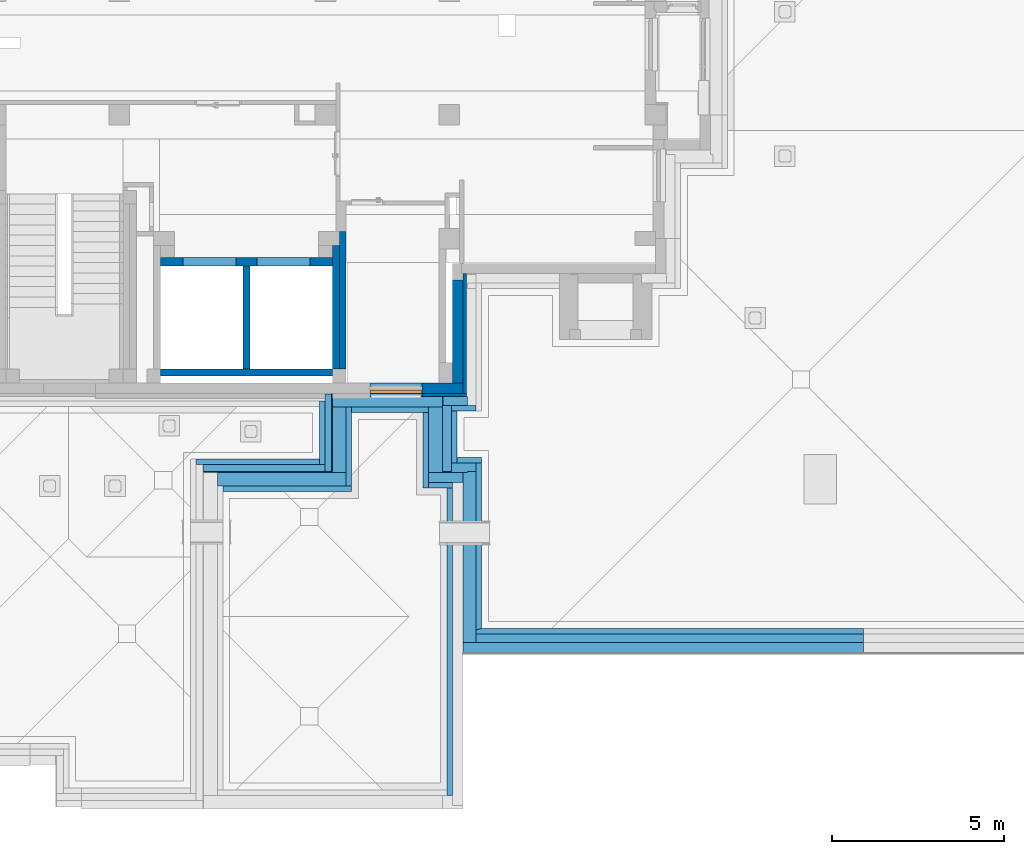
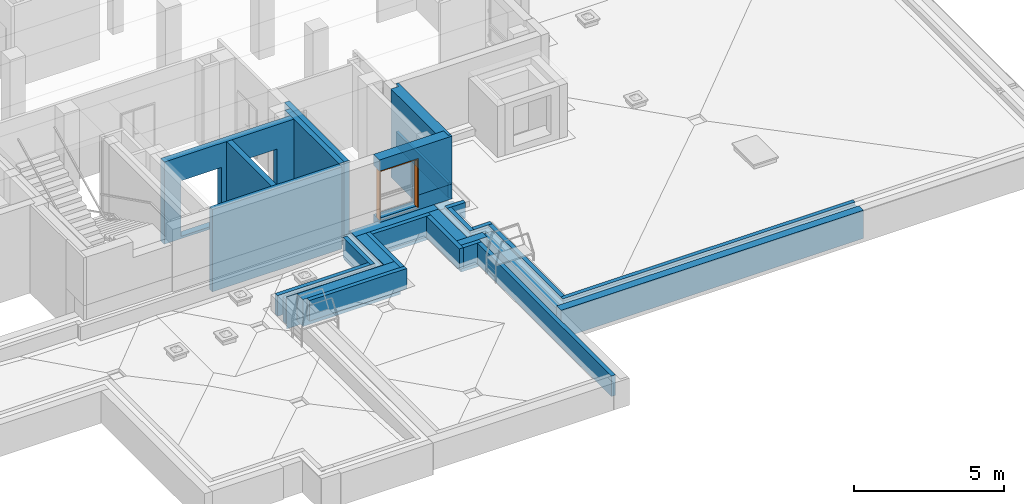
# One storey, part 21 of 50: 27 walls, 1 proxy, 6 openings.
"""IFC4 building model written with IfcOpenShell, lengths in metres."""

from ifc_helpers import new_model, entity, si_unit, converted_unit, derived_unit, frame, frame_2d, origin, origin_with_axes, place, context, subcontext, project, spatial, polyline, rectangle, outline, extrude, clip, bounded_halfspace, faceted_brep, material, layer, layer_set, layer_usage, element, fill, save


model = new_model("IFC4")

# Units and contexts
model_context = context("Model", 3, precision=1e-05, world=origin())
body_context = subcontext(model_context, "Body", "Model", "MODEL_VIEW")
ifc_project = project(units=[si_unit("LENGTHUNIT", "METRE"), si_unit("AREAUNIT", "SQUARE_METRE"), si_unit("VOLUMEUNIT", "CUBIC_METRE"), si_unit("MASSUNIT", "GRAM", prefix="KILO"), converted_unit("PLANEANGLEUNIT", "DEGREE", entity("IfcPlaneAngleMeasure", 0.0174532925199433), si_unit("PLANEANGLEUNIT", "RADIAN"), dimensions=[0, 0, 0, 0, 0, 0, 0]), derived_unit("THERMALTRANSMITTANCEUNIT", [(si_unit("POWERUNIT", "WATT"), 1), (si_unit("THERMODYNAMICTEMPERATUREUNIT", "KELVIN"), -1), (si_unit("LENGTHUNIT", "METRE"), -2)]), derived_unit("VOLUMETRICFLOWRATEUNIT", [(si_unit("LENGTHUNIT", "METRE"), 3), (converted_unit("TIMEUNIT", "hour", entity("IfcTimeMeasure", 3600.0), si_unit("TIMEUNIT", "SECOND"), dimensions=[0, 0, 1, 0, 0, 0, 0]), -1), (si_unit("LENGTHUNIT", "METRE"), -1)])], contexts=[model_context])

# Site, building, storey
site_placement = place(None, origin())
site = spatial("IfcSite", under=ifc_project, at=site_placement, Name="3. ASŘ", CompositionType="ELEMENT")
building_placement = place(site_placement, origin())
building = spatial("IfcBuilding", under=site, at=building_placement, Name="Pavilon C", CompositionType="ELEMENT")
storey_placement = place(building_placement, frame((0.0, 0.0, 3.6)))
storey = spatial("IfcBuildingStorey", under=building, at=storey_placement, Name="Půdorys 2.NP", CompositionType="ELEMENT", Elevation=3.6)

# Wall
ifc_material_1 = material(Name="ZELEZOBETONOVÁ KCE")
ifc_layer_1 = layer(ifc_material_1, 0.2)
ifc_layer_set_1 = layer_set([ifc_layer_1])
ifc_layer_usage_1 = layer_usage(ifc_layer_set_1, "AXIS2", "POSITIVE", 0.0)
wall_1_placement = place(storey_placement, frame((38.15, -3.8, -0.1), z_axis=(0.0, 0.0, 1.0), x_axis=(0.0, 1.0, 0.0)))
element("IfcWall", 1, at=wall_1_placement, inside=storey, material=ifc_layer_usage_1, Name="ZELEZOBETONOVÁ KCE", context=body_context, shape_type="SweptSolid", body=[
    extrude(rectangle(XDim=3.0, YDim=0.2, at=frame_2d((1.5, 0.1), x_axis=(1.0, 0.0))), origin_with_axes(), (0.0, 0.0, 1.0), 3.35),
])

# Wall, openings
ifc_material_2 = material(Name="ZDIVO Z CDm")
ifc_layer_2 = layer(ifc_material_2, 0.25)
ifc_layer_set_2 = layer_set([ifc_layer_2])
ifc_layer_usage_2 = layer_usage(ifc_layer_set_2, "AXIS2", "POSITIVE", 0.0)
wall_2_placement = place(storey_placement, frame((40.55, -0.550000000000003, -0.1), z_axis=(0.0, 0.0, 1.0), x_axis=(-1.0, 0.0, 0.0)))
wall_2 = element("IfcWall", 2, at=wall_2_placement, inside=storey, material=ifc_layer_usage_2, Name="ZDIVO Z CDm", context=body_context, shape_type="SweptSolid", body=[
    extrude(rectangle(XDim=5.0, YDim=0.25, at=frame_2d((2.5, 0.125), x_axis=(1.0, 0.0))), origin_with_axes(), (0.0, 0.0, 1.0), 3.35),
])
opening_1_placement = place(wall_2_placement, frame((0.65, 0.0, 0.1), z_axis=(0.0, 1.0, 0.0), x_axis=(0.0, 0.0, 1.0)))
element("IfcOpeningElement", 3, at=opening_1_placement, cuts=wall_2, Name="Dveřní otvor", ObjectType="Opening", context=body_context, shape_type="SweptSolid", body=[
    extrude(outline(polyline([(0.0, 1.55), (2.26, 1.55), (2.26, 0.0), (0.0, 0.0), (0.0, 1.55)])), origin_with_axes(), (0.0, 0.0, 1.0), 0.25),
])
opening_2_placement = place(wall_2_placement, frame((2.8, 0.0, 0.1), z_axis=(0.0, 1.0, 0.0), x_axis=(0.0, 0.0, 1.0)))
element("IfcOpeningElement", 4, at=opening_2_placement, cuts=wall_2, Name="Dveřní otvor", ObjectType="Opening", context=body_context, shape_type="SweptSolid", body=[
    extrude(outline(polyline([(0.0, 1.55), (2.26, 1.55), (2.26, 0.0), (0.0, 0.0), (0.0, 1.55)])), origin_with_axes(), (0.0, 0.0, 1.0), 0.25),
])

# Walls
ifc_material_3 = material(Name="ZELEZOBETONOVÁ KCE")
ifc_layer_3 = layer(ifc_material_3, 0.2)
ifc_layer_set_3 = layer_set([ifc_layer_3])
ifc_layer_usage_3 = layer_usage(ifc_layer_set_3, "AXIS2", "POSITIVE", 0.0)
wall_3_placement = place(storey_placement, frame((40.55, -0.200000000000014, -0.1), z_axis=(0.0, 0.0, 1.0), x_axis=(0.0, -1.0, 0.0)))
element("IfcWall", 5, at=wall_3_placement, inside=storey, material=ifc_layer_usage_3, Name="ZELEZOBETONOVÁ KCE", context=body_context, shape_type="SweptSolid", body=[
    extrude(rectangle(XDim=3.6, YDim=0.2, at=frame_2d((1.8, 0.1), x_axis=(1.0, 0.0))), origin_with_axes(), (0.0, 0.0, 1.0), 3.35),
])
ifc_material_4 = material(Name="ZELEZOBETONOVÁ KCE")
ifc_layer_4 = layer(ifc_material_4, 0.2)
ifc_layer_set_4 = layer_set([ifc_layer_4])
ifc_layer_usage_4 = layer_usage(ifc_layer_set_4, "AXIS2", "POSITIVE", 0.0)
wall_4_placement = place(storey_placement, frame((40.75, 0.199999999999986, -0.1), z_axis=(0.0, 0.0, 1.0), x_axis=(0.0, -1.0, 0.0)))
element("IfcWall", 6, at=wall_4_placement, inside=storey, material=ifc_layer_usage_4, Name="ZELEZOBETONOVÁ KCE", context=body_context, shape_type="SweptSolid", body=[
    extrude(rectangle(XDim=4.0, YDim=0.2, at=frame_2d((2.0, 0.1), x_axis=(1.0, 0.0))), origin_with_axes(), (0.0, 0.0, 1.0), 3.35),
])
ifc_material_5 = material(Name="ZELEZOBETONOVÁ KCE")
ifc_layer_5 = layer(ifc_material_5, 0.2)
ifc_layer_set_5 = layer_set([ifc_layer_5])
ifc_layer_usage_5 = layer_usage(ifc_layer_set_5, "AXIS2", "POSITIVE", 0.0)
wall_5_placement = place(storey_placement, frame((40.55, -3.80000000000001, -0.1), z_axis=(0.0, 0.0, 1.0), x_axis=(-1.0, 9.09494701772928e-17, 0.0)))
element("IfcWall", 7, at=wall_5_placement, inside=storey, material=ifc_layer_usage_5, Name="ZELEZOBETONOVÁ KCE", context=body_context, shape_type="SweptSolid", body=[
    extrude(rectangle(XDim=5.0, YDim=0.2, at=frame_2d((2.5, 0.1), x_axis=(1.0, 0.0))), origin_with_axes(), (0.0, 0.0, 1.0), 3.35),
])
ifc_material_6 = material(Name="EPS")
ifc_layer_6 = layer(ifc_material_6, 0.1)
ifc_material_7 = material(Name="ZELEZOBETONOVÁ KCE")
ifc_layer_7 = layer(ifc_material_7, 0.3)
ifc_layer_set_6 = layer_set([ifc_layer_6, ifc_layer_7])
ifc_layer_usage_6 = layer_usage(ifc_layer_set_6, "AXIS2", "POSITIVE", -0.1)
wall_6_placement = place(storey_placement, frame((44.45, -4.5, -0.1), z_axis=(0.0, 0.0, 1.0), x_axis=(0.0, 1.0, 0.0)))
element("IfcWall", 8, at=wall_6_placement, inside=storey, material=ifc_layer_usage_6, Name="ZELEZOBETONOVÁ KCE", context=body_context, shape_type="Clipping", body=[
    clip(extrude(outline(polyline([(0.0, -0.4), (3.48, -0.4), (3.48, -0.3), (3.3, -0.3), (3.3, 0.0), (0.3, 0.0), (0.3, -0.3), (0.0, -0.3), (0.0, -0.4)])), frame((0.0, 0.4, 0.0), z_axis=(0.0, 0.0, 1.0), x_axis=(1.0, 0.0, 0.0)), (0.0, 0.0, 1.0), 3.6), bounded_halfspace(frame((1.76, 0.0666666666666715, 1.65), z_axis=(0.0, 0.0, 1.0), x_axis=(-1.0, 0.0, 0.0)), True, origin_with_axes(), polyline([(3.3, 0.1), (0.3, 0.1), (0.0, 0.1), (0.0, 0.0), (3.48, 0.0), (3.48, 0.1), (3.3, 0.1)]))),
])

# Wall, opening, proxy
ifc_material_8 = material(Name="EPS")
ifc_layer_8 = layer(ifc_material_8, 0.1)
ifc_material_9 = material(Name="ZELEZOBETONOVÁ KCE")
ifc_layer_9 = layer(ifc_material_9, 0.3)
ifc_layer_set_7 = layer_set([ifc_layer_8, ifc_layer_9])
ifc_layer_usage_7 = layer_usage(ifc_layer_set_7, "AXIS2", "POSITIVE", -0.1)
wall_7_placement = place(storey_placement, frame((41.65, -4.6, -0.1)))
wall_7 = element("IfcWall", 9, at=wall_7_placement, inside=storey, material=ifc_layer_usage_7, Name="ZELEZOBETONOVÁ KCE", context=body_context, shape_type="Clipping", body=[
    clip(extrude(outline(polyline([(0.0, 0.0), (2.8, 0.0), (2.8, 0.1), (2.7, 0.1), (2.7, 0.4), (0.0, 0.4), (0.0, 0.0)])), origin_with_axes(), (0.0, 0.0, 1.0), 3.6), bounded_halfspace(frame((1.66, 0.06, 1.65), z_axis=(0.0, 0.0, 1.0), x_axis=(-1.0, 0.0, 0.0)), True, origin_with_axes(), polyline([(2.7, 0.1), (0.0, 0.1), (0.0, 0.0), (2.8, 0.0), (2.8, 0.1), (2.7, 0.1)]))),
])
opening_3_placement = place(wall_7_placement, frame((0.0, 0.0, 1.15), z_axis=(0.0, 1.0, 0.0), x_axis=(0.0, 0.0, 1.0)))
opening_3 = element("IfcOpeningElement", 10, at=opening_3_placement, cuts=wall_7, Name="Okenní otvor", ObjectType="Opening", context=body_context, shape_type="SweptSolid", body=[
    extrude(outline(polyline([(0.0, 1.5), (2.0, 1.5), (2.0, 0.0), (0.0, 0.0), (0.0, 1.5)])), origin_with_axes(), (0.0, 0.0, 1.0), 0.1),
    extrude(outline(polyline([(0.0, 1.5), (2.0, 1.5), (2.0, 0.0), (0.0, 0.0), (0.0, 1.5)])), frame((0.0, 0.0, 0.1), z_axis=(0.0, 0.0, 1.0), x_axis=(1.0, 0.0, 0.0)), (0.0, 0.0, 1.0), 0.3),
])
ifc_material_10 = material(Name="EPS")
proxy_placement = place(opening_3_placement, origin())
proxy = element("IfcBuildingElementProxy", 11, at=proxy_placement, inside=storey, material=ifc_material_10, context=body_context, shape_type="Brep", body=[
    faceted_brep([(1.13686837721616e-16, 1.5, 0.2), (1.13686837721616e-16, 1.5, 0.0), (2.0, 1.5, 0.0), (2.0, 1.5, 0.2), (2.0, 0.0, 0.0), (2.0, 0.0, 0.2), (1.13686837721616e-16, 1.46, 0.0), (1.13686837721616e-16, 1.46, 0.2), (1.13686837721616e-16, 0.0, 0.2), (1.13686837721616e-16, 0.0399999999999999, 0.2), (1.96, 0.0399999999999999, 0.2), (1.96, 1.46, 0.2), (1.96, 1.46, 0.0), (1.96, 0.0399999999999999, 0.0), (1.13686837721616e-16, 0.0399999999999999, 0.0), (1.13686837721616e-16, 0.0, 0.0)], [[[0, 1, 2, 3]], [[2, 4, 5, 3]], [[6, 1, 0, 7]], [[7, 0, 3, 5, 8, 9, 10, 11]], [[1, 6, 12, 13, 14, 15, 4, 2]], [[6, 7, 11, 12]], [[15, 8, 5, 4]], [[15, 14, 9, 8]], [[9, 14, 13, 10]], [[10, 13, 12, 11]]], orient=[[False], [False], [False], [False], [False], [False], [False], [False], [False], [False]]),
])
fill(opening_3, proxy)

# Wall, openings
ifc_material_11 = material(Name="STÁVAJÍC KCE")
ifc_layer_10 = layer(ifc_material_11, 0.4)
ifc_layer_set_8 = layer_set([ifc_layer_10])
ifc_layer_usage_8 = layer_usage(ifc_layer_set_8, "AXIS2", "POSITIVE", 0.0)
wall_8_placement = place(storey_placement, frame((40.55, -4.9, -0.15), z_axis=(0.0, 0.0, 1.0), x_axis=(0.0, -1.0, 0.0)))
wall_8 = element("IfcWall", 12, at=wall_8_placement, inside=storey, material=ifc_layer_usage_8, Name="STÁVAJÍCÍ KCE", context=body_context, shape_type="SweptSolid", body=[
    extrude(rectangle(XDim=1.9, YDim=0.4, at=frame_2d((0.95, 0.2), x_axis=(1.0, 0.0))), origin_with_axes(), (0.0, 0.0, 1.0), 1.1),
])
opening_4_placement = place(wall_8_placement, frame((1.275, 0.0, 0.55), z_axis=(0.0, 1.0, 0.0), x_axis=(0.0, 0.0, 1.0)))
element("IfcOpeningElement", 13, at=opening_4_placement, cuts=wall_8, Name="Prostup stěnou", ObjectType="Opening", context=body_context, shape_type="SweptSolid", body=[
    extrude(outline(polyline([(0.0, 0.15), (0.15, 0.15), (0.15, 0.0), (0.0, 0.0), (0.0, 0.15)])), origin_with_axes(), (0.0, 0.0, 1.0), 0.4),
])
opening_5_placement = place(wall_8_placement, frame((0.075, 0.0, 0.55), z_axis=(0.0, 1.0, 0.0), x_axis=(0.0, 0.0, 1.0)))
element("IfcOpeningElement", 14, at=opening_5_placement, cuts=wall_8, Name="Prostup stěnou", ObjectType="Opening", context=body_context, shape_type="SweptSolid", body=[
    extrude(outline(polyline([(0.0, 0.15), (0.15, 0.15), (0.15, 0.0), (0.0, 0.0), (0.0, 0.15)])), origin_with_axes(), (0.0, 0.0, 1.0), 0.4),
])

# Walls
ifc_material_12 = material(Name="STÁVAJÍC KCE")
ifc_layer_11 = layer(ifc_material_12, 0.4)
ifc_layer_set_9 = layer_set([ifc_layer_11])
ifc_layer_usage_9 = layer_usage(ifc_layer_set_9, "AXIS2", "POSITIVE", 0.0)
wall_9_placement = place(storey_placement, frame((40.95, -6.8, -0.15), z_axis=(0.0, 0.0, 1.0), x_axis=(-1.0, -2.42531920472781e-16, 0.0)))
element("IfcWall", 15, at=wall_9_placement, inside=storey, material=ifc_layer_usage_9, Name="STÁVAJÍCÍ KCE", context=body_context, shape_type="SweptSolid", body=[
    extrude(rectangle(XDim=3.75, YDim=0.4, at=frame_2d((1.875, 0.2), x_axis=(1.0, 0.0))), origin_with_axes(), (0.0, 0.0, 1.0), 1.1),
])
ifc_material_13 = material(Name="STÁVAJÍC KCE")
ifc_layer_12 = layer(ifc_material_13, 0.4)
ifc_layer_set_10 = layer_set([ifc_layer_12])
ifc_layer_usage_10 = layer_usage(ifc_layer_set_10, "AXIS2", "POSITIVE", 0.0)
wall_10_placement = place(storey_placement, frame((43.75, -4.5, -0.15), z_axis=(0.0, 0.0, 1.0), x_axis=(-1.0, 0.0, 0.0)))
element("IfcWall", 16, at=wall_10_placement, inside=storey, material=ifc_layer_usage_10, Name="STÁVAJÍCÍ KCE", context=body_context, shape_type="SweptSolid", body=[
    extrude(rectangle(XDim=3.2, YDim=0.4, at=frame_2d((1.6, 0.2), x_axis=(1.0, 0.0))), origin_with_axes(), (0.0, 0.0, 1.0), 1.1),
])
ifc_material_14 = material(Name="STÁVAJÍC KCE")
ifc_layer_13 = layer(ifc_material_14, 0.4)
ifc_layer_set_11 = layer_set([ifc_layer_13])
ifc_layer_usage_11 = layer_usage(ifc_layer_set_11, "AXIS2", "POSITIVE", 0.0)
wall_11_placement = place(storey_placement, frame((43.75, -6.8, -0.15), z_axis=(0.0, 0.0, 1.0), x_axis=(0.0, 1.0, 0.0)))
element("IfcWall", 17, at=wall_11_placement, inside=storey, material=ifc_layer_usage_11, Name="STÁVAJÍCÍ KCE", context=body_context, shape_type="SweptSolid", body=[
    extrude(rectangle(XDim=1.9, YDim=0.4, at=frame_2d((0.95, 0.2), x_axis=(1.0, 0.0))), origin_with_axes(), (0.0, 0.0, 1.0), 1.1),
])
ifc_material_15 = material(Name="YTONG 300")
ifc_layer_14 = layer(ifc_material_15, 0.3)
ifc_layer_set_12 = layer_set([ifc_layer_14])
ifc_layer_usage_12 = layer_usage(ifc_layer_set_12, "AXIS2", "POSITIVE", 0.0)
wall_12_placement = place(storey_placement, frame((44.35, -6.8, -0.15), z_axis=(0.0, 0.0, 1.0), x_axis=(-1.0, 0.0, 0.0)))
element("IfcWall", 18, at=wall_12_placement, inside=storey, material=ifc_layer_usage_12, Name="YTONG 300", context=body_context, shape_type="SweptSolid", body=[
    extrude(rectangle(XDim=1.0, YDim=0.3, at=frame_2d((0.5, 0.15), x_axis=(1.0, 0.0))), origin_with_axes(), (0.0, 0.0, 1.0), 1.1),
])
ifc_material_16 = material(Name="EPS")
ifc_layer_15 = layer(ifc_material_16, 0.02)
ifc_material_17 = material(Name="ZELEZOBETONOVÁ KCE")
ifc_layer_16 = layer(ifc_material_17, 0.2)
ifc_material_18 = material(Name="MINERÁLNÍ VATA")
ifc_layer_17 = layer(ifc_material_18, 0.16)
ifc_layer_set_13 = layer_set([ifc_layer_15, ifc_layer_16, ifc_layer_17])
ifc_layer_usage_13 = layer_usage(ifc_layer_set_13, "AXIS2", "POSITIVE", -0.02)
wall_13_placement = place(storey_placement, frame((36.8, -6.8, -0.35)))
element("IfcWall", 19, at=wall_13_placement, inside=storey, material=ifc_layer_usage_13, Name="MINERÁLNÍ VATA", context=body_context, shape_type="Clipping", body=[
    clip(clip(clip(extrude(outline(polyline([(0.22, 0.0), (3.94999999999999, 0.0), (3.94999999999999, 0.02), (3.74999999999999, 0.02), (3.74999999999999, 0.22), (3.58999999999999, 0.22), (3.58999999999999, 0.38), (0.0, 0.38), (0.0, 0.22), (0.2, 0.22), (0.2, 0.02), (0.22, 0.02), (0.22, 0.0)])), frame((-0.22, 0.0, 0.0), z_axis=(0.0, 0.0, 1.0), x_axis=(1.0, 0.0, 0.0)), (0.0, 0.0, 1.0), 1.3), bounded_halfspace(frame((1.40399999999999, 0.1, 0.2), z_axis=(0.0, 0.0, 1.0), x_axis=(0.0, -1.0, 0.0)), True, origin_with_axes(), polyline([(-0.02, 0.220000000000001), (-0.02, 0.0200000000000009), (0.0, 0.02), (3.52999999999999, 0.0200000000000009), (3.52999999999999, 0.220000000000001), (-0.02, 0.220000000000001)]))), bounded_halfspace(frame((1.25599999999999, 0.284, 0.460000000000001), z_axis=(0.0, 0.0, 1.0), x_axis=(0.0, -1.0, 0.0)), True, origin_with_axes(), polyline([(-0.22, 0.38), (-0.22, 0.22), (-0.02, 0.220000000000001), (3.36999999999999, 0.22), (3.36999999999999, 0.38), (-0.22, 0.38)]))), bounded_halfspace(frame((1.73166666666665, 0.120000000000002, 1.2), z_axis=(0.0, 0.0, -1.0), x_axis=(1.0, 2.5764722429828e-16, 0.0)), True, origin_with_axes(), polyline([(0.0, 0.02), (3.52999999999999, 0.0200000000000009), (3.52999999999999, 0.220000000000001), (3.36999999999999, 0.220000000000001), (-0.02, 0.220000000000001), (-0.02, 0.0200000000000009), (0.0, 0.02)]))),
])
ifc_material_19 = material(Name="EPS")
ifc_layer_18 = layer(ifc_material_19, 0.02)
ifc_material_20 = material(Name="ZELEZOBETONOVÁ KCE")
ifc_layer_19 = layer(ifc_material_20, 0.2)
ifc_material_21 = material(Name="MINERÁLNÍ VATA")
ifc_layer_20 = layer(ifc_material_21, 0.16)
ifc_layer_set_14 = layer_set([ifc_layer_18, ifc_layer_19, ifc_layer_20])
ifc_layer_usage_14 = layer_usage(ifc_layer_set_14, "AXIS2", "POSITIVE", -0.02)
wall_14_placement = place(storey_placement, frame((40.55, -6.8, -0.35), z_axis=(0.0, 0.0, 1.0), x_axis=(0.0, 1.0, 0.0)))
element("IfcWall", 20, at=wall_14_placement, inside=storey, material=ifc_layer_usage_14, Name="MINERÁLNÍ VATA", context=body_context, shape_type="Clipping", body=[
    clip(clip(clip(extrude(outline(polyline([(0.0, -0.38), (2.3, -0.38), (2.3, -0.36), (2.28, -0.36), (2.28, -0.16), (2.08, -0.16), (2.08, 0.0), (0.22, 0.0), (0.22, -0.16), (0.02, -0.16), (0.02, -0.36), (0.0, -0.36), (0.0, -0.38)])), frame((0.0, 0.38, 0.0), z_axis=(0.0, 0.0, 1.0), x_axis=(1.0, 0.0, 0.0)), (0.0, 0.0, 1.0), 1.3), bounded_halfspace(frame((1.15, 0.12, 0.2), z_axis=(0.0, 0.0, 1.0), x_axis=(0.0, -1.0, 0.0)), True, origin_with_axes(), polyline([(0.02, 0.22), (0.02, 0.02), (2.28, 0.02), (2.28, 0.22), (0.02, 0.22)]))), bounded_halfspace(frame((1.15, 0.3, 0.46), z_axis=(0.0, 0.0, 1.0), x_axis=(0.0, -1.0, 0.0)), True, origin_with_axes(), polyline([(0.22, 0.38), (0.22, 0.22), (2.08, 0.22), (2.08, 0.38), (0.22, 0.38)]))), bounded_halfspace(frame((1.15, 0.153333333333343, 1.2), z_axis=(0.0, 0.0, -1.0), x_axis=(1.0, 0.0, 0.0)), True, origin_with_axes(), polyline([(0.02, 0.02), (2.28, 0.02), (2.28, 0.22), (2.08, 0.22), (0.22, 0.22), (0.02, 0.22), (0.02, 0.02)]))),
])
ifc_material_22 = material(Name="MINERÁLNÍ VATA")
ifc_layer_21 = layer(ifc_material_22, 0.16)
ifc_layer_set_15 = layer_set([ifc_layer_21])
ifc_layer_usage_15 = layer_usage(ifc_layer_set_15, "AXIS2", "POSITIVE", 0.0)
wall_15_placement = place(storey_placement, frame((43.35, -7.26, 0.11)))
element("IfcWall", 21, at=wall_15_placement, inside=storey, material=ifc_layer_usage_15, Name="MINERÁLNÍ VATA", context=body_context, shape_type="SweptSolid", body=[
    extrude(rectangle(XDim=0.7, YDim=0.16, at=frame_2d((0.35, 0.08), x_axis=(1.0, 0.0))), origin_with_axes(), (0.0, 0.0, 1.0), 0.84),
])
ifc_material_23 = material(Name="MINERÁLNÍ VATA")
ifc_layer_22 = layer(ifc_material_23, 0.16)
ifc_layer_set_16 = layer_set([ifc_layer_22])
ifc_layer_usage_16 = layer_usage(ifc_layer_set_16, "AXIS2", "POSITIVE", 0.0)
wall_16_placement = place(storey_placement, frame((44.05, -16.2, 0.11), z_axis=(0.0, 0.0, 1.0), x_axis=(0.0, 1.0, 0.0)))
element("IfcWall", 22, at=wall_16_placement, inside=storey, material=ifc_layer_usage_16, Name="MINERÁLNÍ VATA", context=body_context, shape_type="SweptSolid", body=[
    extrude(rectangle(XDim=8.94000000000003, YDim=0.16, at=frame_2d((4.47000000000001, 0.08), x_axis=(1.0, 0.0))), origin_with_axes(), (0.0, 0.0, 1.0), 0.84),
])
ifc_material_24 = material(Name="MINERÁLNÍ VATA")
ifc_layer_23 = layer(ifc_material_24, 0.16)
ifc_layer_set_17 = layer_set([ifc_layer_23])
ifc_layer_usage_17 = layer_usage(ifc_layer_set_17, "AXIS2", "POSITIVE", 0.0)
wall_17_placement = place(storey_placement, frame((41.11, -7.2, 0.11), z_axis=(0.0, 0.0, 1.0), x_axis=(-1.0, -2.42531920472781e-16, 0.0)))
element("IfcWall", 23, at=wall_17_placement, inside=storey, material=ifc_layer_usage_17, Name="MINERÁLNÍ VATA", context=body_context, shape_type="SweptSolid", body=[
    extrude(rectangle(XDim=3.75, YDim=0.16, at=frame_2d((1.875, 0.08), x_axis=(1.0, 0.0))), origin_with_axes(), (0.0, 0.0, 1.0), 0.84),
])
ifc_material_25 = material(Name="MINERÁLNÍ VATA")
ifc_layer_24 = layer(ifc_material_25, 0.16)
ifc_layer_set_18 = layer_set([ifc_layer_24])
ifc_layer_usage_18 = layer_usage(ifc_layer_set_18, "AXIS2", "POSITIVE", 0.0)
wall_18_placement = place(storey_placement, frame((40.95, -4.9, 0.11), z_axis=(0.0, 0.0, 1.0), x_axis=(0.0, -1.0, 0.0)))
element("IfcWall", 24, at=wall_18_placement, inside=storey, material=ifc_layer_usage_18, Name="MINERÁLNÍ VATA", context=body_context, shape_type="SweptSolid", body=[
    extrude(rectangle(XDim=2.3, YDim=0.16, at=frame_2d((1.15, 0.08), x_axis=(1.0, 0.0))), origin_with_axes(), (0.0, 0.0, 1.0), 0.84),
])
ifc_material_26 = material(Name="MINERÁLNÍ VATA")
ifc_layer_25 = layer(ifc_material_26, 0.16)
ifc_layer_set_19 = layer_set([ifc_layer_25])
ifc_layer_usage_19 = layer_usage(ifc_layer_set_19, "AXIS2", "POSITIVE", 0.0)
wall_19_placement = place(storey_placement, frame((43.35, -4.9, 0.11), z_axis=(0.0, 0.0, 1.0), x_axis=(-1.0, 0.0, 0.0)))
element("IfcWall", 25, at=wall_19_placement, inside=storey, material=ifc_layer_usage_19, Name="MINERÁLNÍ VATA", context=body_context, shape_type="SweptSolid", body=[
    extrude(rectangle(XDim=2.24, YDim=0.16, at=frame_2d((1.12, 0.08), x_axis=(1.0, 0.0))), origin_with_axes(), (0.0, 0.0, 1.0), 0.84),
])
ifc_material_27 = material(Name="MINERÁLNÍ VATA")
ifc_layer_26 = layer(ifc_material_27, 0.16)
ifc_layer_set_20 = layer_set([ifc_layer_26])
ifc_layer_usage_20 = layer_usage(ifc_layer_set_20, "AXIS2", "POSITIVE", 0.0)
wall_20_placement = place(storey_placement, frame((43.35, -7.26, 0.11), z_axis=(0.0, 0.0, 1.0), x_axis=(0.0, 1.0, 0.0)))
element("IfcWall", 26, at=wall_20_placement, inside=storey, material=ifc_layer_usage_20, Name="MINERÁLNÍ VATA", context=body_context, shape_type="SweptSolid", body=[
    extrude(rectangle(XDim=2.2, YDim=0.16, at=frame_2d((1.1, 0.08), x_axis=(1.0, 0.0))), origin_with_axes(), (0.0, 0.0, 1.0), 0.84),
])
ifc_material_28 = material(Name="EPS")
ifc_layer_27 = layer(ifc_material_28, 0.1)
ifc_layer_set_21 = layer_set([ifc_layer_27])
ifc_layer_usage_21 = layer_usage(ifc_layer_set_21, "AXIS2", "POSITIVE", 0.0)
wall_21_placement = place(storey_placement, frame((44.45, -4.5, 0.95), z_axis=(0.0, 0.0, 1.0), x_axis=(0.0, 1.0, 0.0)))
element("IfcWall", 27, at=wall_21_placement, inside=storey, material=ifc_layer_usage_21, Name="EPS", context=body_context, shape_type="SweptSolid", body=[
    extrude(rectangle(XDim=3.48, YDim=0.1, at=frame_2d((1.74, 0.05), x_axis=(1.0, 0.0))), origin_with_axes(), (0.0, 0.0, 1.0), 0.6),
])

# Wall, opening
ifc_material_29 = material(Name="EPS")
ifc_layer_28 = layer(ifc_material_29, 0.1)
ifc_layer_set_22 = layer_set([ifc_layer_28])
ifc_layer_usage_22 = layer_usage(ifc_layer_set_22, "AXIS2", "POSITIVE", 0.0)
wall_22_placement = place(storey_placement, frame((41.65, -4.6, 0.95)))
wall_22 = element("IfcWall", 28, at=wall_22_placement, inside=storey, material=ifc_layer_usage_22, Name="EPS", context=body_context, shape_type="SweptSolid", body=[
    extrude(rectangle(XDim=2.8, YDim=0.1, at=frame_2d((1.4, 0.05), x_axis=(1.0, 0.0))), origin_with_axes(), (0.0, 0.0, 1.0), 0.6),
])
opening_6_placement = place(wall_22_placement, frame((0.0, 0.0, 0.1), z_axis=(0.0, 1.0, 0.0), x_axis=(0.0, 0.0, 1.0)))
element("IfcOpeningElement", 29, at=opening_6_placement, cuts=wall_22, Name="Okenní otvor", ObjectType="Opening", context=body_context, shape_type="SweptSolid", body=[
    extrude(outline(polyline([(0.0, 1.5), (2.0, 1.5), (2.0, 0.0), (0.0, 0.0), (0.0, 1.5)])), origin_with_axes(), (0.0, 0.0, 1.0), 0.1),
])

# Walls
ifc_material_30 = material(Name="EPS")
ifc_layer_29 = layer(ifc_material_30, 0.1)
ifc_material_31 = material(Name="ZELEZOBETONOVÁ KCE")
ifc_layer_30 = layer(ifc_material_31, 0.25)
ifc_material_32 = material(Name="MINERÁLNÍ VATA")
ifc_layer_31 = layer(ifc_material_32, 0.16)
ifc_layer_set_23 = layer_set([ifc_layer_29, ifc_layer_30, ifc_layer_31])
ifc_layer_usage_23 = layer_usage(ifc_layer_set_23, "AXIS2", "POSITIVE", -0.1)
wall_23_placement = place(storey_placement, frame((44.35, -4.5, -0.2), z_axis=(0.0, 0.0, 1.0), x_axis=(-1.0, 0.0, 0.0)))
element("IfcWall", 30, at=wall_23_placement, inside=storey, material=ifc_layer_usage_23, Name="MINERÁLNÍ VATA", context=body_context, shape_type="Clipping", body=[
    clip(clip(clip(extrude(outline(polyline([(-0.6, -0.51), (0.0, -0.51), (0.0, -0.41), (-0.02, -0.41), (-0.02, -0.16), (-0.27, -0.16), (-0.27, 0.0), (-0.98, 0.0), (-0.98, -0.16), (-0.73, -0.16), (-0.73, -0.41), (-0.6, -0.41), (-0.6, -0.51)])), frame((0.6, 0.51, 0.0), z_axis=(0.0, 0.0, 1.0), x_axis=(1.0, 0.0, 0.0)), (0.0, 0.0, 1.0), 1.15), bounded_halfspace(frame((0.18, 0.2, 0.25), z_axis=(0.0, 0.0, 1.0), x_axis=(0.0, -1.0, 0.0)), True, origin_with_axes(), polyline([(-0.13, 0.35), (-0.13, 0.1), (0.0, 0.1), (0.58, 0.1), (0.58, 0.35), (-0.13, 0.35)]))), bounded_halfspace(frame((-0.046, 0.414, 0.510000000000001), z_axis=(0.0, 0.0, 1.0), x_axis=(0.0, -1.0, 0.0)), True, origin_with_axes(), polyline([(-0.38, 0.51), (-0.38, 0.35), (-0.13, 0.35), (0.33, 0.35), (0.33, 0.51), (-0.38, 0.51)]))), bounded_halfspace(frame((0.270000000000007, 0.16111111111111, 1.05), z_axis=(0.0, 0.0, -1.0), x_axis=(1.0, 0.0, 0.0)), True, origin_with_axes(), polyline([(0.0, 0.0), (0.6, 0.0), (0.6, 0.1), (0.58, 0.1), (0.58, 0.35), (0.33, 0.35), (-0.13, 0.35), (-0.13, 0.1), (0.0, 0.1), (0.0, 0.0)]))),
])
ifc_material_33 = material(Name="EPS")
ifc_layer_32 = layer(ifc_material_33, 0.02)
ifc_material_34 = material(Name="ZELEZOBETONOVÁ KCE")
ifc_layer_33 = layer(ifc_material_34, 0.25)
ifc_material_35 = material(Name="MINERÁLNÍ VATA")
ifc_layer_34 = layer(ifc_material_35, 0.16)
ifc_layer_set_24 = layer_set([ifc_layer_32, ifc_layer_33, ifc_layer_34])
ifc_layer_usage_24 = layer_usage(ifc_layer_set_24, "AXIS2", "POSITIVE", -0.02)
wall_24_placement = place(storey_placement, frame((43.75, -4.6, -0.2), z_axis=(0.0, 0.0, 1.0), x_axis=(0.0, -1.0, 0.0)))
element("IfcWall", 31, at=wall_24_placement, inside=storey, material=ifc_layer_usage_24, Name="MINERÁLNÍ VATA", context=body_context, shape_type="Clipping", body=[
    clip(clip(clip(extrude(outline(polyline([(-2.2, 0.0), (0.0, 0.0), (0.0, 0.02), (-0.02, 0.02), (-0.02, 0.27), (-0.27, 0.27), (-0.27, 0.43), (-1.79, 0.43), (-1.79, 0.27), (-1.95, 0.27), (-1.95, 0.02), (-2.2, 0.02), (-2.2, 0.0)])), frame((2.2, 0.0, 0.0), z_axis=(0.0, 0.0, 1.0), x_axis=(1.0, 0.0, 0.0)), (0.0, 0.0, 1.0), 1.15), bounded_halfspace(frame((1.215, 0.145, 0.25), z_axis=(0.0, 0.0, 1.0), x_axis=(0.0, -1.0, 0.0)), True, origin_with_axes(), polyline([(0.250000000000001, 0.27), (0.250000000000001, 0.02), (2.18, 0.02), (2.18, 0.27), (0.250000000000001, 0.27)]))), bounded_halfspace(frame((1.17, 0.349999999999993, 0.51), z_axis=(0.0, 0.0, 1.0), x_axis=(0.0, -1.0, 0.0)), True, origin_with_axes(), polyline([(0.41, 0.429999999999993), (0.41, 0.269999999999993), (1.93, 0.269999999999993), (1.93, 0.429999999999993), (0.41, 0.429999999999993)]))), bounded_halfspace(frame((1.16, 0.115999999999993, 1.05), z_axis=(0.0, 0.0, -1.0), x_axis=(1.0, 0.0, 0.0)), True, origin_with_axes(), polyline([(0.0, -7.27595761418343e-15), (2.2, -7.27595761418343e-15), (2.2, 0.0199999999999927), (2.18, 0.0199999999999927), (2.18, 0.27), (1.93, 0.27), (0.41, 0.27), (0.250000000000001, 0.27), (0.250000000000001, 0.0199999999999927), (0.0, 0.0199999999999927), (0.0, -7.27595761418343e-15)]))),
])
ifc_material_36 = material(Name="EPS")
ifc_layer_35 = layer(ifc_material_36, 0.13)
ifc_material_37 = material(Name="ZELEZOBETONOVÁ KCE")
ifc_layer_36 = layer(ifc_material_37, 0.25)
ifc_material_38 = material(Name="MINERÁLNÍ VATA")
ifc_layer_37 = layer(ifc_material_38, 0.16)
ifc_layer_set_25 = layer_set([ifc_layer_35, ifc_layer_36, ifc_layer_37])
ifc_layer_usage_25 = layer_usage(ifc_layer_set_25, "AXIS2", "POSITIVE", -0.13)
wall_25_placement = place(storey_placement, frame((44.35, -6.8, -0.2), z_axis=(0.0, 0.0, 1.0), x_axis=(0.0, -1.0, 0.0)))
element("IfcWall", 32, at=wall_25_placement, inside=storey, material=ifc_layer_usage_25, Name="MINERÁLNÍ VATA", context=body_context, shape_type="Clipping", body=[
    clip(clip(clip(extrude(outline(polyline([(-4.97000000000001, 0.13), (-4.95, 0.13), (-4.95, 0.0), (0.0, 0.0), (0.0, 0.38), (-0.36, 0.38), (-0.41, 0.54), (-5.22000000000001, 0.54), (-5.22000000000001, 0.38), (-4.97000000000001, 0.38), (-4.97000000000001, 0.13)])), frame((4.95, 0.0, 0.0), z_axis=(0.0, 0.0, 1.0), x_axis=(1.0, 0.0, 0.0)), (0.0, 0.0, 1.0), 1.15), bounded_halfspace(frame((1.972, 0.229999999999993, 0.25), z_axis=(0.0, 0.0, 1.0), x_axis=(0.0, -1.0, 0.0)), True, origin_with_axes(), polyline([(-0.02, 0.379999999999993), (-0.02, 0.129999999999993), (9.09494701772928e-16, 0.129999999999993), (4.95, 0.129999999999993), (4.95, 0.379999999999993), (-0.02, 0.379999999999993)]))), bounded_halfspace(frame((1.714, 0.443999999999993, 0.510000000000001), z_axis=(0.0, 0.0, 1.0), x_axis=(0.0, -1.0, 0.0)), True, origin_with_axes(), polyline([(-0.269999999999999, 0.539999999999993), (-0.269999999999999, 0.379999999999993), (-0.02, 0.379999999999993), (4.59, 0.379999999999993), (4.54, 0.539999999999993), (-0.269999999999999, 0.539999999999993)]))), bounded_halfspace(frame((2.06428571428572, 0.199999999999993, 1.05), z_axis=(0.0, 0.0, -1.0), x_axis=(1.0, 0.0, 0.0)), True, origin_with_axes(), polyline([(9.09494701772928e-16, -7.27595761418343e-15), (4.95, -7.27595761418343e-15), (4.95, 0.379999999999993), (4.59, 0.379999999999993), (-0.02, 0.379999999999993), (-0.02, 0.129999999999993), (9.09494701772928e-16, 0.129999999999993), (9.09494701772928e-16, -7.27595761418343e-15)]))),
])
ifc_material_39 = material(Name="EPS")
ifc_layer_38 = layer(ifc_material_39, 0.02)
ifc_material_40 = material(Name="ZELEZOBETONOVÁ KCE")
ifc_layer_39 = layer(ifc_material_40, 0.25)
ifc_material_41 = material(Name="MINERÁLNÍ VATA")
ifc_layer_40 = layer(ifc_material_41, 0.16)
ifc_layer_set_26 = layer_set([ifc_layer_38, ifc_layer_39, ifc_layer_40])
ifc_layer_usage_26 = layer_usage(ifc_layer_set_26, "AXIS2", "POSITIVE", -0.02)
wall_26_placement = place(storey_placement, frame((43.77, -6.8, -0.2)))
element("IfcWall", 33, at=wall_26_placement, inside=storey, material=ifc_layer_usage_26, Name="MINERÁLNÍ VATA", context=body_context, shape_type="Clipping", body=[
    clip(clip(clip(extrude(outline(polyline([(0.0, 0.0), (0.71, 0.0), (0.71, 0.02), (0.96, 0.02), (0.96, 0.27), (1.12, 0.27), (1.12, 0.43), (0.41, 0.43), (0.41, 0.27), (0.25, 0.27), (0.25, 0.02), (0.0, 0.02), (0.0, 0.0)])), origin_with_axes(), (0.0, 0.0, 1.0), 1.15), bounded_halfspace(frame((0.626, 0.120000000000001, 0.25), z_axis=(0.0, 0.0, 1.0), x_axis=(0.0, -1.0, 0.0)), True, origin_with_axes(), polyline([(0.25, 0.270000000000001), (0.25, 0.0200000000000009), (0.71, 0.02), (0.96, 0.0200000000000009), (0.96, 0.270000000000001), (0.25, 0.270000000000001)]))), bounded_halfspace(frame((0.804, 0.333999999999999, 0.510000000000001), z_axis=(0.0, 0.0, 1.0), x_axis=(0.0, -1.0, 0.0)), True, origin_with_axes(), polyline([(0.41, 0.43), (0.41, 0.27), (0.96, 0.270000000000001), (1.12, 0.27), (1.12, 0.43), (0.41, 0.43)]))), bounded_halfspace(frame((0.472222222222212, 0.0988888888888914, 1.05), z_axis=(0.0, 0.0, -1.0), x_axis=(1.0, 0.0, 0.0)), True, origin_with_axes(), polyline([(0.0, 0.0), (0.71, 0.0), (0.71, 0.02), (0.96, 0.0200000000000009), (0.96, 0.270000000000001), (0.41, 0.270000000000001), (0.25, 0.270000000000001), (0.25, 0.02), (0.0, 0.02), (0.0, 0.0)]))),
])
ifc_material_42 = material(Name="MINERÁLNÍ VATA")
ifc_layer_41 = layer(ifc_material_42, 0.3)
ifc_material_43 = material(Name="ZELEZOBETONOVÁ KCE")
ifc_layer_42 = layer(ifc_material_43, 0.25)
ifc_material_44 = material(Name="MINERÁLNÍ VATA")
ifc_layer_43 = layer(ifc_material_44, 0.16)
ifc_layer_set_27 = layer_set([ifc_layer_41, ifc_layer_42, ifc_layer_43])
ifc_layer_usage_27 = layer_usage(ifc_layer_set_27, "AXIS2", "POSITIVE", -0.3)
wall_27_placement = place(storey_placement, frame((44.35, -12.05, -0.2)))
element("IfcWall", 34, at=wall_27_placement, inside=storey, material=ifc_layer_usage_27, Name="MINERÁLNÍ VATA", context=body_context, shape_type="Clipping", body=[
    clip(clip(clip(extrude(outline(polyline([(0.38, 0.66), (0.38, 0.3), (0.0, 0.3), (0.0, 0.0), (11.6500000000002, 0.0), (11.6500000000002, 0.71), (0.54, 0.71), (0.38, 0.66)])), origin_with_axes(), (0.0, 0.0, 1.0), 1.15), bounded_halfspace(frame((6.01500000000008, 0.425, 0.25), z_axis=(0.0, 0.0, 1.0), x_axis=(0.0, -1.0, 0.0)), True, origin_with_axes(), polyline([(0.38, 0.55), (0.38, 0.3), (11.6500000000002, 0.3), (11.6500000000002, 0.55), (0.38, 0.55)]))), bounded_halfspace(frame((4.92000000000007, 0.636, 0.510000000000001), z_axis=(0.0, 0.0, 1.0), x_axis=(0.0, -1.0, 0.0)), True, origin_with_axes(), polyline([(0.38, 0.66), (0.38, 0.55), (11.6500000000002, 0.55), (11.6500000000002, 0.71), (0.54, 0.71), (0.38, 0.66)]))), bounded_halfspace(frame((6.01500000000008, 0.425, 1.05), z_axis=(0.0, 0.0, -1.0), x_axis=(1.0, 0.0, 0.0)), True, origin_with_axes(), polyline([(0.38, 0.3), (11.6500000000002, 0.3), (11.6500000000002, 0.55), (0.38, 0.55), (0.38, 0.3)]))),
])

save(model, "model.ifc")
